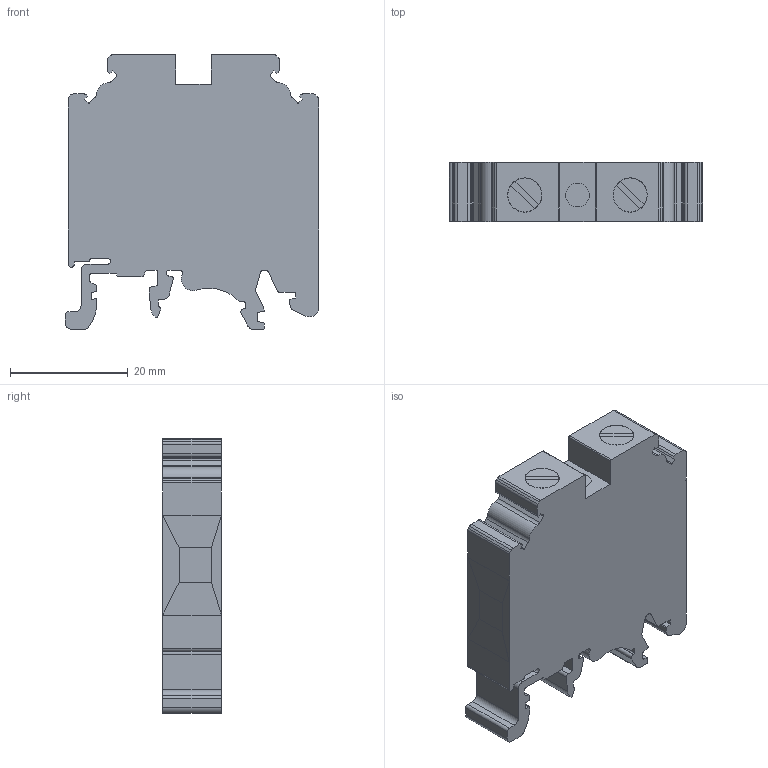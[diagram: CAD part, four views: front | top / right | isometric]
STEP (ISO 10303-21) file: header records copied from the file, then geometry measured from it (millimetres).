
FILE_DESCRIPTION( ( 'Unknown' ), '1' );
FILE_NAME( 'Z:/Product Configurator/3d/stp1/CTS10U.stp', 'Unknown', ( 'Unknown' ), ( 'Unknown' ), 'PSStep 17.0.49', 'Unknown', ' ' );
FILE_SCHEMA( ( 'AUTOMOTIVE_DESIGN { 1 0 10303 214 1 1 1 1 }' ) );
Length unit declared in the file: millimetre
Products named in the file (1): 1
Bounding box: 43.01 x 10 x 46.65 mm (x, y, z)
Volume: 15910.5 mm3; surface area: 5842.3 mm2
Topology: 1 solids, 1 shells, 199 faces, 560 edges, 366 vertices
Faces by surface type: plane 123, cylinder 76
Full cylindrical faces by diameter (mm): 4 x1, 5.8 x2
Entity records: 7991 total; most frequent: CARTESIAN_POINT 1119, DIRECTION 1113, ORIENTED_EDGE 1110, EDGE_CURVE 555, LINE 397, VECTOR 397, VERTEX_POINT 364, AXIS2_PLACEMENT_3D 358
